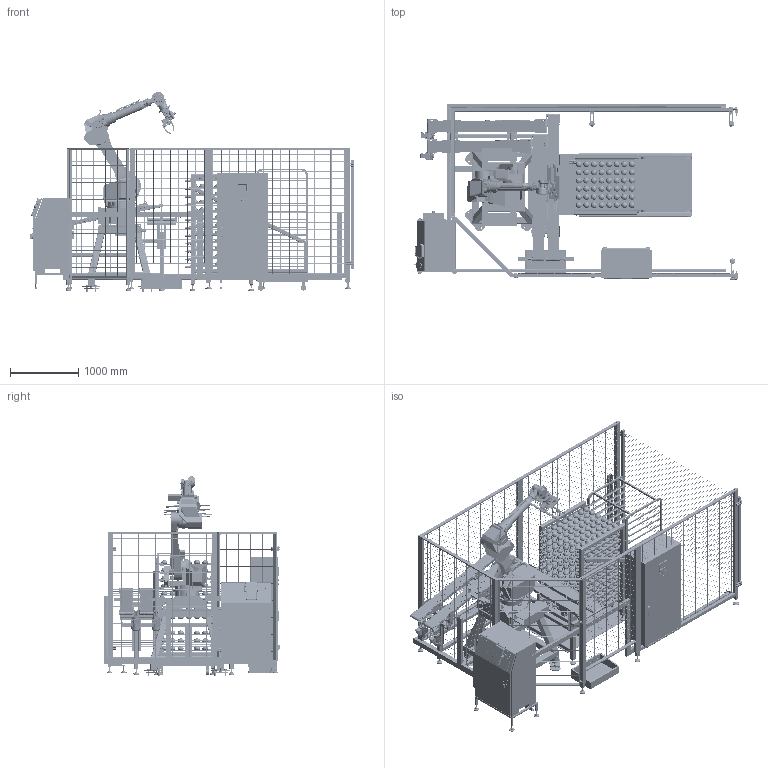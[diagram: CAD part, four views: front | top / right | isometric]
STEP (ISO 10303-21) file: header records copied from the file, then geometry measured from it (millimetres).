
FILE_DESCRIPTION (( 'STEP AP203' ), '1' );
FILE_NAME ('14H001 cellule robot.STEP', '2018-10-16T18:12:12', ( 'Phil' ), ( '' ), 'SwSTEP 2.0', 'SolidWorks 2018', '' );
FILE_SCHEMA (( 'CONFIG_CONTROL_DESIGN' ));
Length unit declared in the file: millimetre
Products named in the file (1926): 200g; 14K270 V1513 rouleau arbre.Stp; 14E031 fils vertical grille 1860 diam 3; 14L425 Support équerre soudé; 14E032 fils horizontal grille 1480 diam 2.5; 14E025 profilé grillage 1960x50x20; hex bolt gradeab fine_iso; 14B106 Plaque_moyenne; 14G202 - Joint à lèvres; 14c116 maintient capteur grille 1; 14E031 fils vertical grille 1680 diam 3 grille détourée paton; 14C107grille; 14E031 fils vertical grille 1051 diam 3 grille détourée paton; socket head cap screw_iso; 14H161 équerre; 14H163 lazer; 14E031 fils vertical grille 1960 diam 3; 14C118 plaque pied fixation; HI_HPC - PR85-12-125 (0_X2_00B0_X0_) - Tige; 14D056 - support cable armoire robot en tole plié; 14C187 60 x 60 x 400; 14L421 Equerre de fixation convoyeurs; 14F161 goulotte 3050; HI_HPC - PR85-12-75 (0_X2_00B0_X0_) - Tige1; 14G304 - plaque liaison vérin-pivot; 14L422 Support convoyeur Tapis_D‚faut<Brut d''usinage>; 14L427-2; 14E039 fils horizontal grille 1071 diam 2.5; 14L425 Equerre Reglage; 14H189 Palier; 14E025 profilé grillage 1960x50x50; 14B108 Plaque_longue_poussée_grille; 14K268 V6445 bloqueur bande; 14F100 Mécano_D‚faut<Brut d''usinage>; hex flange nut gradea_iso; 14C103 rail droit; 14C183 60 x 60 x 1610; 14L402 piece rainure 1; torque nut 08_iso; 14E055 bouchon ep10 poteaux enceinte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
Assembly tree (1048 placements, depth 6):
  200g
  14K270 V1513 rouleau arbre.Stp
  14E031 fils vertical grille 1860 diam 3
  14L425 Support équerre soudé
  14E032 fils horizontal grille 1480 diam 2.5
Bounding box: 4768.54 x 2584.5 x 2941.62 mm (x, y, z)
Volume: 1089589681.5 mm3; surface area: 123585379.1 mm2
Topology: 1769 solids, 1785 shells, 27436 faces, 66314 edges, 41598 vertices
Faces by surface type: plane 15346, cylinder 7556, bspline 2468, cone 1453, torus 597, sphere 16
Entity records: 487131 total; most frequent: CARTESIAN_POINT 79276, ORIENTED_EDGE 49226, DIRECTION 48051, EDGE_CURVE 24615, LINE 16567, VECTOR 16567, PERSON_AND_ORGANIZATION 16456, VERTEX_POINT 16050
